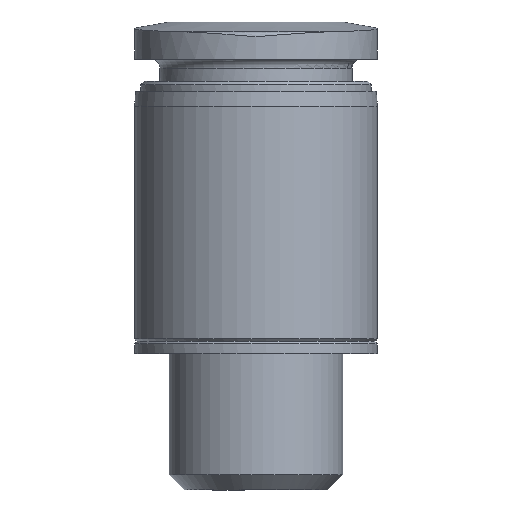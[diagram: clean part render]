
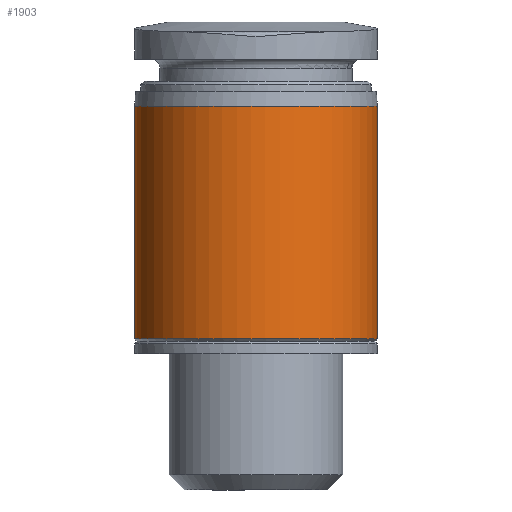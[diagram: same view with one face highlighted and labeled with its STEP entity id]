
A CAD part, front view. The second image highlights one B-rep face of the part: STEP entity #1903.
In plain terms, the highlighted cylindrical face has radius 4.9 mm (diameter 9.8 mm), a partial arc.
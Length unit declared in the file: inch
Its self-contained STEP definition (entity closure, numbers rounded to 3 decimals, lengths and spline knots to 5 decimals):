
#25 = ORIENTED_EDGE ( 'NONE', *, *, #1882, .F. ) ;
#30 = CARTESIAN_POINT ( 'NONE',  ( 0.19291, -0.02525, 0.3937 ) ) ;
#42 = CARTESIAN_POINT ( 'NONE',  ( -0.09715, -0.16857, 0.3937 ) ) ;
#45 = CARTESIAN_POINT ( 'NONE',  ( -0.09715, -0.16857, 0.02362 ) ) ;
#56 = CYLINDRICAL_SURFACE ( 'NONE', #1317, 0.19291 ) ;
#80 = CARTESIAN_POINT ( 'NONE',  ( 0.09715, -0.16857, 0.3937 ) ) ;
#179 = CARTESIAN_POINT ( 'NONE',  ( -0.18789, -0.05049, 0.3937 ) ) ;
#188 = CARTESIAN_POINT ( 'NONE',  ( 0.02525, -0.19291, 0.02362 ) ) ;
#196 = DIRECTION ( 'NONE',  ( 0., 0., -1. ) ) ;
#198 = CARTESIAN_POINT ( 'NONE',  ( 0.09715, -0.16857, 0.02362 ) ) ;
#203 = FACE_OUTER_BOUND ( 'NONE', #478, .T. ) ;
#215 = DIRECTION ( 'NONE',  ( 0., 0., -1. ) ) ;
#332 = CARTESIAN_POINT ( 'NONE',  ( -0.19291, 0., -0.21654 ) ) ;
#338 = DIRECTION ( 'NONE',  ( -1., 0., 0. ) ) ;
#364 = CARTESIAN_POINT ( 'NONE',  ( 0.18789, -0.05049, 0.3937 ) ) ;
#387 = ORIENTED_EDGE ( 'NONE', *, *, #1257, .T. ) ;
#428 = VERTEX_POINT ( 'NONE', #826 ) ;
#472 = CARTESIAN_POINT ( 'NONE',  ( 0.05049, -0.18789, 0.3937 ) ) ;
#478 = EDGE_LOOP ( 'NONE', ( #25, #1520, #387, #575 ) ) ;
#483 = CARTESIAN_POINT ( 'NONE',  ( 0.15427, -0.11855, 0.02362 ) ) ;
#489 = CARTESIAN_POINT ( 'NONE',  ( -0.15427, -0.11855, 0.02362 ) ) ;
#520 = CARTESIAN_POINT ( 'NONE',  ( 0.11855, -0.15427, 0.3937 ) ) ;
#561 = VECTOR ( 'NONE', #790, 39.37008 ) ;
#575 = ORIENTED_EDGE ( 'NONE', *, *, #1396, .F. ) ;
#636 = CARTESIAN_POINT ( 'NONE',  ( -0.19291, -0.02525, 0.3937 ) ) ;
#640 = CARTESIAN_POINT ( 'NONE',  ( -0.11855, -0.15427, 0.02362 ) ) ;
#649 = CARTESIAN_POINT ( 'NONE',  ( -0.18789, -0.05049, 0.02362 ) ) ;
#670 = CARTESIAN_POINT ( 'NONE',  ( -0.15427, -0.11855, 0.3937 ) ) ;
#681 = CARTESIAN_POINT ( 'NONE',  ( -0.05049, -0.18789, 0.3937 ) ) ;
#747 = CARTESIAN_POINT ( 'NONE',  ( 0.19291, 0., 0.3937 ) ) ;
#790 = DIRECTION ( 'NONE',  ( 0., 0., -1. ) ) ;
#792 = CARTESIAN_POINT ( 'NONE',  ( -0.02525, -0.19291, 0.02362 ) ) ;
#821 = CARTESIAN_POINT ( 'NONE',  ( 0.02525, -0.19291, 0.3937 ) ) ;
#826 = CARTESIAN_POINT ( 'NONE',  ( -0.19291, 0., 0.3937 ) ) ;
#829 = CARTESIAN_POINT ( 'NONE',  ( 0.19291, 0., 0.02362 ) ) ;
#886 = CARTESIAN_POINT ( 'NONE',  ( 0.19291, 0., 0.02362 ) ) ;
#931 = CARTESIAN_POINT ( 'NONE',  ( -0.11855, -0.15427, 0.3937 ) ) ;
#935 = CARTESIAN_POINT ( 'NONE',  ( 0.05049, -0.18789, 0.02362 ) ) ;
#942 = CARTESIAN_POINT ( 'NONE',  ( -0.19291, 0., 0.02362 ) ) ;
#944 = CARTESIAN_POINT ( 'NONE',  ( -0.16857, -0.09715, 0.02362 ) ) ;
#956 = B_SPLINE_CURVE_WITH_KNOTS ( 'NONE', 3,
 ( #1851, #30, #364, #1673, #1517, #520, #80, #472, #821, #1525, #681, #42, #931, #670, #1364, #179, #636, #1711 ),
 .UNSPECIFIED., .F., .F.,
 ( 4, 2, 2, 2, 2, 2, 2, 2, 4 ),
 ( 3.14159, 3.53429, 3.92699, 4.31969, 4.71239, 5.10509, 5.49779, 5.89049, 6.28319 ),
 .UNSPECIFIED. ) ;
#1025 = EDGE_CURVE ( 'NONE', #1844, #428, #956, .T. ) ;
#1084 = CARTESIAN_POINT ( 'NONE',  ( 0.11855, -0.15427, 0.02362 ) ) ;
#1147 = B_SPLINE_CURVE_WITH_KNOTS ( 'NONE', 3,
 ( #829, #1421, #1230, #1819, #483, #1084, #198, #935, #188, #792, #1827, #45, #640, #489, #944, #649, #1246, #1832 ),
 .UNSPECIFIED., .F., .F.,
 ( 4, 2, 2, 2, 2, 2, 2, 2, 4 ),
 ( 3.14159, 3.53429, 3.92699, 4.31969, 4.71239, 5.10509, 5.49779, 5.89049, 6.28319 ),
 .UNSPECIFIED. ) ;
#1230 = CARTESIAN_POINT ( 'NONE',  ( 0.18789, -0.05049, 0.02362 ) ) ;
#1246 = CARTESIAN_POINT ( 'NONE',  ( -0.19291, -0.02525, 0.02362 ) ) ;
#1257 = EDGE_CURVE ( 'NONE', #428, #1622, #1554, .T. ) ;
#1317 = AXIS2_PLACEMENT_3D ( 'NONE', #1689, #196, #338 ) ;
#1364 = CARTESIAN_POINT ( 'NONE',  ( -0.16857, -0.09715, 0.3937 ) ) ;
#1373 = CARTESIAN_POINT ( 'NONE',  ( 0.19291, 0., -0.21654 ) ) ;
#1396 = EDGE_CURVE ( 'NONE', #1826, #1622, #1147, .T. ) ;
#1421 = CARTESIAN_POINT ( 'NONE',  ( 0.19291, -0.02525, 0.02362 ) ) ;
#1517 = CARTESIAN_POINT ( 'NONE',  ( 0.15427, -0.11855, 0.3937 ) ) ;
#1520 = ORIENTED_EDGE ( 'NONE', *, *, #1025, .T. ) ;
#1525 = CARTESIAN_POINT ( 'NONE',  ( -0.02525, -0.19291, 0.3937 ) ) ;
#1544 = LINE ( 'NONE', #1373, #561 ) ;
#1554 = LINE ( 'NONE', #332, #1679 ) ;
#1622 = VERTEX_POINT ( 'NONE', #942 ) ;
#1673 = CARTESIAN_POINT ( 'NONE',  ( 0.16857, -0.09715, 0.3937 ) ) ;
#1679 = VECTOR ( 'NONE', #215, 39.37008 ) ;
#1689 = CARTESIAN_POINT ( 'NONE',  ( 0., 0., -0.21654 ) ) ;
#1711 = CARTESIAN_POINT ( 'NONE',  ( -0.19291, 0., 0.3937 ) ) ;
#1819 = CARTESIAN_POINT ( 'NONE',  ( 0.16857, -0.09715, 0.02362 ) ) ;
#1826 = VERTEX_POINT ( 'NONE', #886 ) ;
#1827 = CARTESIAN_POINT ( 'NONE',  ( -0.05049, -0.18789, 0.02362 ) ) ;
#1832 = CARTESIAN_POINT ( 'NONE',  ( -0.19291, 0., 0.02362 ) ) ;
#1844 = VERTEX_POINT ( 'NONE', #747 ) ;
#1851 = CARTESIAN_POINT ( 'NONE',  ( 0.19291, 0., 0.3937 ) ) ;
#1882 = EDGE_CURVE ( 'NONE', #1844, #1826, #1544, .T. ) ;
#1903 = ADVANCED_FACE ( 'NONE', ( #203 ), #56, .T. ) ;
